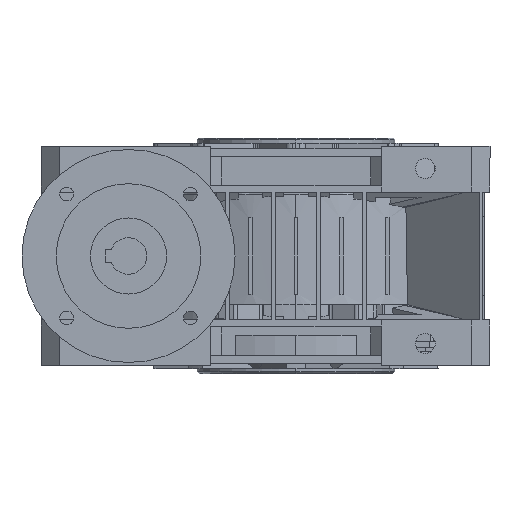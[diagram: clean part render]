
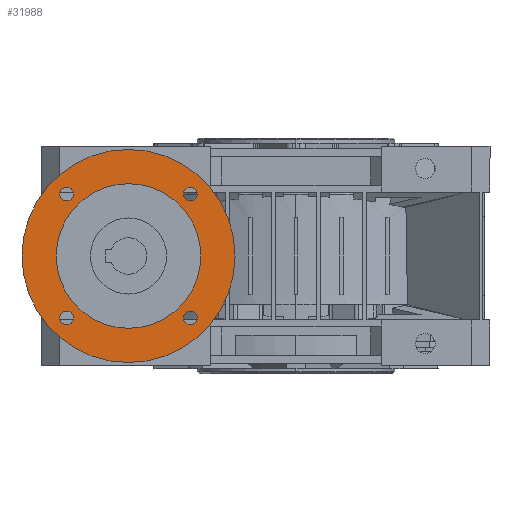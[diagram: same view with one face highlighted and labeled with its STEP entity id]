
A CAD part, left-side view. The second image highlights one B-rep face of the part: STEP entity #31988.
In plain terms, the highlighted planar face has unit normal (-1, 0, 0) as drawn and (1, 0, 0) by its records, which use the part's own axes.
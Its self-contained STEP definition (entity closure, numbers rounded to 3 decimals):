
#389 = ORIENTED_EDGE ( 'NONE', *, *, #24774, .F. ) ;
#765 = DIRECTION ( 'NONE',  ( 0., 0., 1. ) ) ;
#1186 = EDGE_CURVE ( 'NONE', #32361, #43782, #8159, .T. ) ;
#1228 = AXIS2_PLACEMENT_3D ( 'NONE', #16543, #34641, #38603 ) ;
#1511 = CARTESIAN_POINT ( 'NONE',  ( 16., 40.659, -40.659 ) ) ;
#2096 = CIRCLE ( 'NONE', #1228, 4.5 ) ;
#2796 = CARTESIAN_POINT ( 'NONE',  ( 16., -40.659, 45.159 ) ) ;
#3114 = FACE_BOUND ( 'NONE', #37640, .T. ) ;
#3513 = DIRECTION ( 'NONE',  ( 1., 0., 0. ) ) ;
#3516 = ORIENTED_EDGE ( 'NONE', *, *, #1186, .F. ) ;
#3819 = VERTEX_POINT ( 'NONE', #32309 ) ;
#3968 = DIRECTION ( 'NONE',  ( 0., 1., 0. ) ) ;
#3977 = CIRCLE ( 'NONE', #34479, 47.5 ) ;
#4435 = EDGE_CURVE ( 'NONE', #3819, #39468, #22433, .T. ) ;
#4590 = DIRECTION ( 'NONE',  ( 0., 0., -1. ) ) ;
#4890 = EDGE_LOOP ( 'NONE', ( #3516, #29237 ) ) ;
#5150 = DIRECTION ( 'NONE',  ( 0., 0., 1. ) ) ;
#5154 = DIRECTION ( 'NONE',  ( 0., 0., -1. ) ) ;
#5278 = DIRECTION ( 'NONE',  ( 0., 0., 1. ) ) ;
#5526 = CIRCLE ( 'NONE', #6611, 70. ) ;
#6161 = DIRECTION ( 'NONE',  ( 0., 0., 1. ) ) ;
#6292 = EDGE_CURVE ( 'NONE', #45794, #39171, #13782, .T. ) ;
#6467 = DIRECTION ( 'NONE',  ( 1., 0., 0. ) ) ;
#6611 = AXIS2_PLACEMENT_3D ( 'NONE', #16143, #23535, #5278 ) ;
#7824 = DIRECTION ( 'NONE',  ( 1., 0., 0. ) ) ;
#8159 = CIRCLE ( 'NONE', #19512, 4.5 ) ;
#8384 = CARTESIAN_POINT ( 'NONE',  ( 16., 0., 47.5 ) ) ;
#9059 = CARTESIAN_POINT ( 'NONE',  ( 16., 40.659, -45.159 ) ) ;
#9504 = ORIENTED_EDGE ( 'NONE', *, *, #31006, .F. ) ;
#9668 = VERTEX_POINT ( 'NONE', #40152 ) ;
#10445 = FACE_BOUND ( 'NONE', #38414, .T. ) ;
#10858 = AXIS2_PLACEMENT_3D ( 'NONE', #37435, #26724, #5150 ) ;
#11281 = CARTESIAN_POINT ( 'NONE',  ( 16., 40.659, 40.659 ) ) ;
#11878 = ORIENTED_EDGE ( 'NONE', *, *, #15614, .F. ) ;
#12720 = FACE_OUTER_BOUND ( 'NONE', #41592, .T. ) ;
#13782 = CIRCLE ( 'NONE', #35074, 47.5 ) ;
#14191 = CARTESIAN_POINT ( 'NONE',  ( 16., -40.659, -40.659 ) ) ;
#14586 = ORIENTED_EDGE ( 'NONE', *, *, #41817, .F. ) ;
#14795 = CARTESIAN_POINT ( 'NONE',  ( 16., -40.659, 40.659 ) ) ;
#15057 = VERTEX_POINT ( 'NONE', #28420 ) ;
#15284 = AXIS2_PLACEMENT_3D ( 'NONE', #21930, #3513, #3968 ) ;
#15614 = EDGE_CURVE ( 'NONE', #42242, #22082, #40435, .T. ) ;
#16143 = CARTESIAN_POINT ( 'NONE',  ( 16., 0., 0. ) ) ;
#16543 = CARTESIAN_POINT ( 'NONE',  ( 16., -40.659, -40.659 ) ) ;
#17306 = CIRCLE ( 'NONE', #15284, 4.5 ) ;
#17794 = AXIS2_PLACEMENT_3D ( 'NONE', #14795, #29437, #765 ) ;
#18058 = ORIENTED_EDGE ( 'NONE', *, *, #34440, .T. ) ;
#18548 = CIRCLE ( 'NONE', #31709, 4.5 ) ;
#19021 = DIRECTION ( 'NONE',  ( 0., 1., 0. ) ) ;
#19512 = AXIS2_PLACEMENT_3D ( 'NONE', #1511, #26420, #5154 ) ;
#19913 = AXIS2_PLACEMENT_3D ( 'NONE', #11281, #7824, #19021 ) ;
#20038 = FACE_BOUND ( 'NONE', #46141, .T. ) ;
#20217 = DIRECTION ( 'NONE',  ( -1., 0., 0. ) ) ;
#21123 = PLANE ( 'NONE',  #38643 ) ;
#21930 = CARTESIAN_POINT ( 'NONE',  ( 16., 40.659, 40.659 ) ) ;
#22082 = VERTEX_POINT ( 'NONE', #2796 ) ;
#22118 = DIRECTION ( 'NONE',  ( 0., 0., 1. ) ) ;
#22417 = CIRCLE ( 'NONE', #17794, 4.5 ) ;
#22433 = CIRCLE ( 'NONE', #19913, 4.5 ) ;
#23001 = CARTESIAN_POINT ( 'NONE',  ( 16., 0., -47.5 ) ) ;
#23389 = VERTEX_POINT ( 'NONE', #44642 ) ;
#23535 = DIRECTION ( 'NONE',  ( -1., 0., 0. ) ) ;
#23745 = CARTESIAN_POINT ( 'NONE',  ( 16., 0., 0. ) ) ;
#23822 = DIRECTION ( 'NONE',  ( 0., 0., 1. ) ) ;
#24591 = CARTESIAN_POINT ( 'NONE',  ( 16., 40.659, 36.159 ) ) ;
#24774 = EDGE_CURVE ( 'NONE', #34350, #15057, #2096, .T. ) ;
#25900 = DIRECTION ( 'NONE',  ( -1., 0., 0. ) ) ;
#26420 = DIRECTION ( 'NONE',  ( 1., 0., 0. ) ) ;
#26657 = ORIENTED_EDGE ( 'NONE', *, *, #44428, .F. ) ;
#26724 = DIRECTION ( 'NONE',  ( 1., 0., 0. ) ) ;
#26780 = CARTESIAN_POINT ( 'NONE',  ( 16., -40.659, 36.159 ) ) ;
#26818 = FACE_BOUND ( 'NONE', #4890, .T. ) ;
#27556 = DIRECTION ( 'NONE',  ( -1., 0., 0. ) ) ;
#27756 = CARTESIAN_POINT ( 'NONE',  ( 16., 70., 0. ) ) ;
#28420 = CARTESIAN_POINT ( 'NONE',  ( 16., -40.659, -36.159 ) ) ;
#29237 = ORIENTED_EDGE ( 'NONE', *, *, #35480, .F. ) ;
#29437 = DIRECTION ( 'NONE',  ( 1., 0., 0. ) ) ;
#29896 = CARTESIAN_POINT ( 'NONE',  ( 16., -40.659, -45.159 ) ) ;
#30508 = DIRECTION ( 'NONE',  ( 0., 0., 1. ) ) ;
#31006 = EDGE_CURVE ( 'NONE', #22082, #42242, #22417, .T. ) ;
#31154 = EDGE_CURVE ( 'NONE', #9668, #23389, #5526, .T. ) ;
#31709 = AXIS2_PLACEMENT_3D ( 'NONE', #33275, #40486, #4590 ) ;
#31980 = DIRECTION ( 'NONE',  ( 0., -1., 0. ) ) ;
#31988 = ADVANCED_FACE ( 'NONE', ( #10445, #37524, #3114, #26818, #12720, #20038 ), #21123, .F. ) ;
#32309 = CARTESIAN_POINT ( 'NONE',  ( 16., 40.659, 45.159 ) ) ;
#32361 = VERTEX_POINT ( 'NONE', #9059 ) ;
#33275 = CARTESIAN_POINT ( 'NONE',  ( 16., 40.659, -40.659 ) ) ;
#34350 = VERTEX_POINT ( 'NONE', #29896 ) ;
#34440 = EDGE_CURVE ( 'NONE', #39171, #45794, #3977, .T. ) ;
#34479 = AXIS2_PLACEMENT_3D ( 'NONE', #23745, #27556, #30508 ) ;
#34641 = DIRECTION ( 'NONE',  ( 1., 0., 0. ) ) ;
#34981 = DIRECTION ( 'NONE',  ( -1., 0., 0. ) ) ;
#35074 = AXIS2_PLACEMENT_3D ( 'NONE', #39750, #25900, #22118 ) ;
#35480 = EDGE_CURVE ( 'NONE', #43782, #32361, #18548, .T. ) ;
#36523 = EDGE_LOOP ( 'NONE', ( #11878, #9504 ) ) ;
#36732 = CIRCLE ( 'NONE', #37696, 70. ) ;
#37435 = CARTESIAN_POINT ( 'NONE',  ( 16., -40.659, 40.659 ) ) ;
#37524 = FACE_BOUND ( 'NONE', #36523, .T. ) ;
#37597 = ORIENTED_EDGE ( 'NONE', *, *, #4435, .F. ) ;
#37640 = EDGE_LOOP ( 'NONE', ( #389, #14586 ) ) ;
#37696 = AXIS2_PLACEMENT_3D ( 'NONE', #45561, #20217, #23822 ) ;
#38414 = EDGE_LOOP ( 'NONE', ( #39456, #37597 ) ) ;
#38603 = DIRECTION ( 'NONE',  ( 0., -1., 0. ) ) ;
#38643 = AXIS2_PLACEMENT_3D ( 'NONE', #27756, #34981, #6161 ) ;
#38646 = ORIENTED_EDGE ( 'NONE', *, *, #31154, .F. ) ;
#39171 = VERTEX_POINT ( 'NONE', #8384 ) ;
#39456 = ORIENTED_EDGE ( 'NONE', *, *, #41279, .F. ) ;
#39468 = VERTEX_POINT ( 'NONE', #24591 ) ;
#39750 = CARTESIAN_POINT ( 'NONE',  ( 16., 0., 0. ) ) ;
#40152 = CARTESIAN_POINT ( 'NONE',  ( 16., 0., 70. ) ) ;
#40300 = AXIS2_PLACEMENT_3D ( 'NONE', #14191, #6467, #31980 ) ;
#40435 = CIRCLE ( 'NONE', #10858, 4.5 ) ;
#40486 = DIRECTION ( 'NONE',  ( 1., 0., 0. ) ) ;
#41249 = CARTESIAN_POINT ( 'NONE',  ( 16., 40.659, -36.159 ) ) ;
#41279 = EDGE_CURVE ( 'NONE', #39468, #3819, #17306, .T. ) ;
#41592 = EDGE_LOOP ( 'NONE', ( #38646, #26657 ) ) ;
#41817 = EDGE_CURVE ( 'NONE', #15057, #34350, #42574, .T. ) ;
#42242 = VERTEX_POINT ( 'NONE', #26780 ) ;
#42574 = CIRCLE ( 'NONE', #40300, 4.5 ) ;
#43782 = VERTEX_POINT ( 'NONE', #41249 ) ;
#44428 = EDGE_CURVE ( 'NONE', #23389, #9668, #36732, .T. ) ;
#44642 = CARTESIAN_POINT ( 'NONE',  ( 16., 0., -70. ) ) ;
#45561 = CARTESIAN_POINT ( 'NONE',  ( 16., 0., 0. ) ) ;
#45794 = VERTEX_POINT ( 'NONE', #23001 ) ;
#46141 = EDGE_LOOP ( 'NONE', ( #18058, #46646 ) ) ;
#46646 = ORIENTED_EDGE ( 'NONE', *, *, #6292, .T. ) ;
